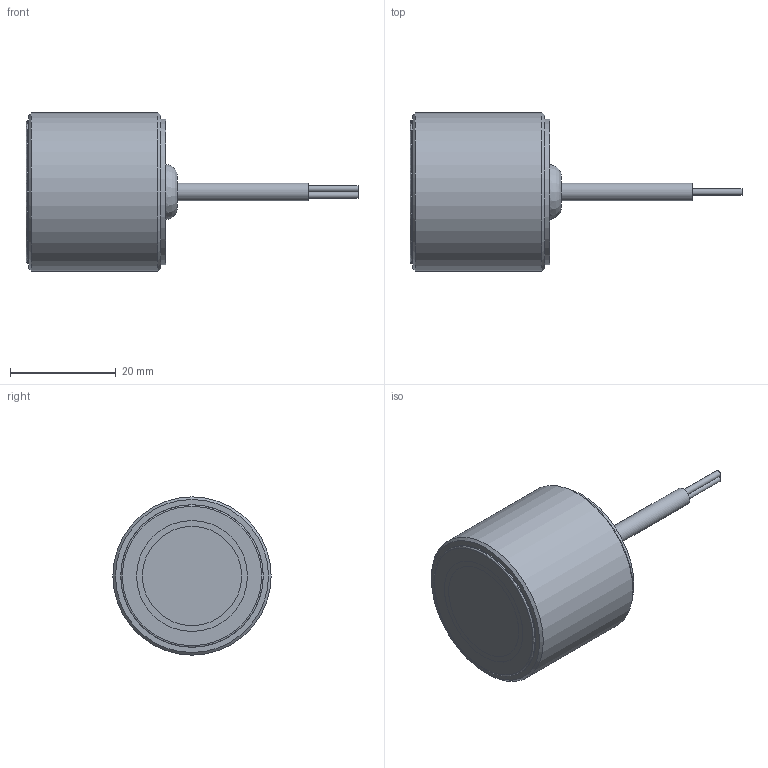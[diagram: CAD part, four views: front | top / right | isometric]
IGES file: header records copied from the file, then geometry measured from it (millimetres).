
Global section: file name: No Iges File Name specified; native system: AutoDesk Inventor R6.1; preprocessor: AutoDesk Inventor Iges Exporter R6.1; author: No Author specified; organization: No Organization specified; date: 20050805.085646; units: millimetre
Bounding box: 62.92 x 30 x 30 mm (x, y, z)
Surface area: 4208.3 mm2 (no closed solid volume)
Topology: 0 solids, 0 shells, 22 faces, 56 edges, 41 vertices
Faces by surface type: revolution 12, plane 10
